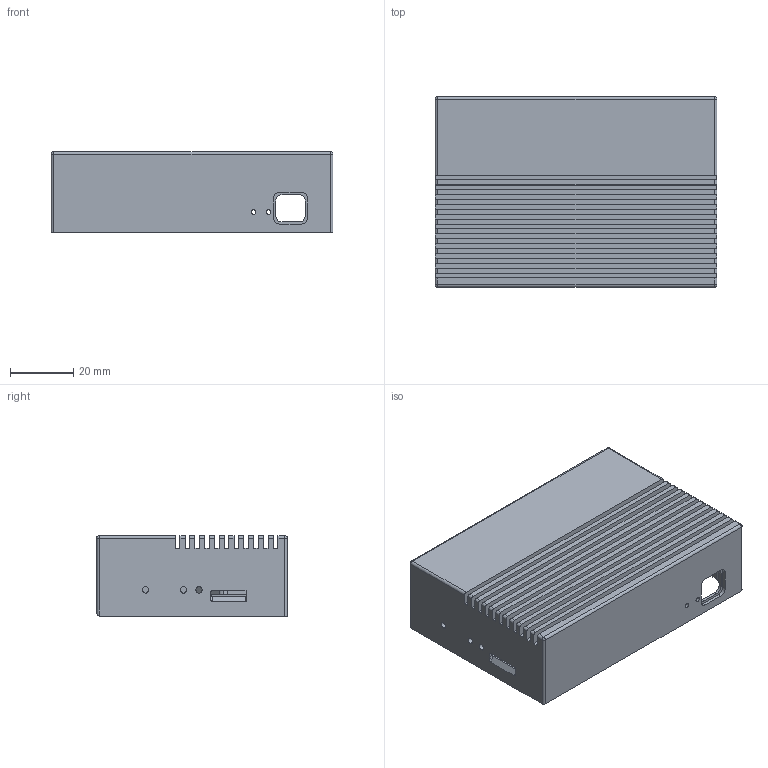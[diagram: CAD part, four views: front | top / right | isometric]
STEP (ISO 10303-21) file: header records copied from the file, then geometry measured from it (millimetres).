
FILE_DESCRIPTION (( 'STEP AP214' ), '1' );
FILE_NAME ('LubanCat 1 N ¶¥¸Ç.STEP', '2022-11-29T02:34:08', ( '' ), ( '' ), 'SwSTEP 2.0', 'SolidWorks 2021', '' );
FILE_SCHEMA (( 'AUTOMOTIVE_DESIGN' ));
Length unit declared in the file: millimetre
Products named in the file (1): LubanCat 1  N 階裔
Bounding box: 89.2 x 60.4 x 25.5 mm (x, y, z)
Volume: 36856.3 mm3; surface area: 29140.8 mm2
Topology: 1 solids, 1 shells, 200 faces, 573 edges, 368 vertices
Faces by surface type: plane 95, cylinder 85, bspline 8, cone 8, sphere 4
Entity records: 6638 total; most frequent: CARTESIAN_POINT 1271, ORIENTED_EDGE 1122, DIRECTION 1088, EDGE_CURVE 561, VECTOR 374, LINE 374, VERTEX_POINT 368, AXIS2_PLACEMENT_3D 357
